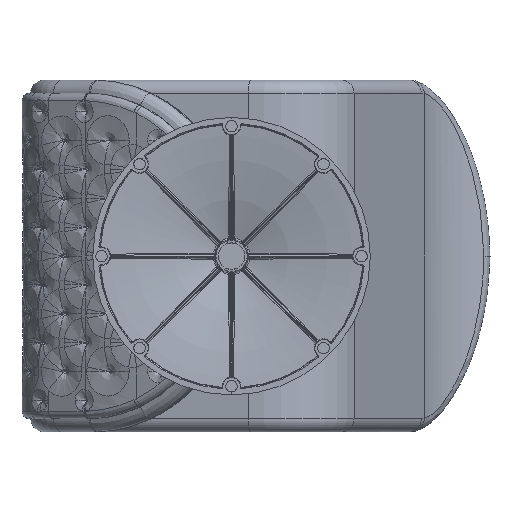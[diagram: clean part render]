
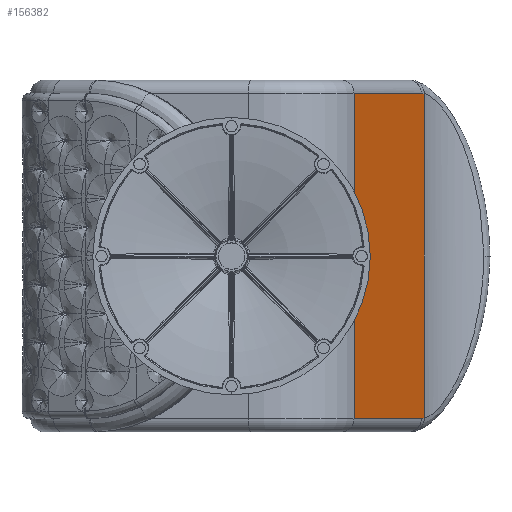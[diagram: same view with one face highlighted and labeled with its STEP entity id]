
A CAD part, front view. The second image highlights one B-rep face of the part: STEP entity #156382.
In plain terms, the highlighted planar face has unit normal (0.93, -0.366, 0).
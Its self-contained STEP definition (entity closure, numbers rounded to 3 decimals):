
#4900 = CARTESIAN_POINT ( 'NONE',  ( 538.254, -15.279, -585.55 ) ) ;
#6703 = VERTEX_POINT ( 'NONE', #183985 ) ;
#7054 = VECTOR ( 'NONE', #212210, 1000. ) ;
#7744 = ORIENTED_EDGE ( 'NONE', *, *, #209621, .T. ) ;
#8601 = EDGE_CURVE ( 'NONE', #83063, #13597, #74716, .T. ) ;
#13597 = VERTEX_POINT ( 'NONE', #151121 ) ;
#14421 = EDGE_CURVE ( 'NONE', #183163, #6703, #230262, .T. ) ;
#15755 = AXIS2_PLACEMENT_3D ( 'NONE', #97322, #58363, #232225 ) ;
#23156 = EDGE_LOOP ( 'NONE', ( #181387, #190611, #7744, #161607, #98940, #212314 ) ) ;
#25504 = CARTESIAN_POINT ( 'NONE',  ( 656.184, 284.105, -585.55 ) ) ;
#28682 = FACE_OUTER_BOUND ( 'NONE', #23156, .T. ) ;
#30157 = CARTESIAN_POINT ( 'NONE',  ( 654.523, 279.888, -585.55 ) ) ;
#49538 = CARTESIAN_POINT ( 'NONE',  ( 538.254, -15.279, -22.45 ) ) ;
#50424 = CARTESIAN_POINT ( 'NONE',  ( 654.523, 279.888, -22.45 ) ) ;
#58363 = DIRECTION ( 'NONE',  ( -0.93, 0.367, 0. ) ) ;
#58507 = CARTESIAN_POINT ( 'NONE',  ( 654.523, 279.888, -585.55 ) ) ;
#61096 = CARTESIAN_POINT ( 'NONE',  ( 659.499, 292.518, 0. ) ) ;
#64700 = LINE ( 'NONE', #61096, #7054 ) ;
#66321 = CARTESIAN_POINT ( 'NONE',  ( 656.184, 284.105, -22.45 ) ) ;
#66491 = VERTEX_POINT ( 'NONE', #4900 ) ;
#74716 = B_SPLINE_CURVE_WITH_KNOTS ( 'NONE', 3,
 ( #179694, #122349, #66321, #50424 ),
 .UNSPECIFIED., .F., .F.,
 ( 4, 4 ),
 ( 0., 0.014 ),
 .UNSPECIFIED. ) ;
#79827 = DIRECTION ( 'NONE',  ( 0.367, 0.93, 0. ) ) ;
#83063 = VERTEX_POINT ( 'NONE', #215412 ) ;
#97322 = CARTESIAN_POINT ( 'NONE',  ( 330.657, -542.294, 0. ) ) ;
#98940 = ORIENTED_EDGE ( 'NONE', *, *, #116244, .T. ) ;
#113343 = CARTESIAN_POINT ( 'NONE',  ( 657.843, 288.315, -585.366 ) ) ;
#114900 = DIRECTION ( 'NONE',  ( 0., 0., 1. ) ) ;
#116083 = LINE ( 'NONE', #191666, #164228 ) ;
#116244 = EDGE_CURVE ( 'NONE', #66491, #183163, #118712, .T. ) ;
#118712 = LINE ( 'NONE', #170086, #166963 ) ;
#122349 = CARTESIAN_POINT ( 'NONE',  ( 657.843, 288.315, -22.634 ) ) ;
#133549 = LINE ( 'NONE', #205512, #140921 ) ;
#140921 = VECTOR ( 'NONE', #207892, 1000. ) ;
#151121 = CARTESIAN_POINT ( 'NONE',  ( 654.523, 279.888, -22.45 ) ) ;
#156382 = ADVANCED_FACE ( 'NONE', ( #28682 ), #225352, .F. ) ;
#161607 = ORIENTED_EDGE ( 'NONE', *, *, #209043, .F. ) ;
#164228 = VECTOR ( 'NONE', #114900, 1000. ) ;
#166963 = VECTOR ( 'NONE', #79827, 1000. ) ;
#170086 = CARTESIAN_POINT ( 'NONE',  ( 648.323, 264.147, -585.55 ) ) ;
#172806 = VERTEX_POINT ( 'NONE', #49538 ) ;
#179694 = CARTESIAN_POINT ( 'NONE',  ( 659.499, 292.518, -23.002 ) ) ;
#181387 = ORIENTED_EDGE ( 'NONE', *, *, #205711, .T. ) ;
#183163 = VERTEX_POINT ( 'NONE', #30157 ) ;
#183985 = CARTESIAN_POINT ( 'NONE',  ( 659.499, 292.518, -584.998 ) ) ;
#190611 = ORIENTED_EDGE ( 'NONE', *, *, #8601, .T. ) ;
#191666 = CARTESIAN_POINT ( 'NONE',  ( 538.254, -15.279, 0. ) ) ;
#192498 = CARTESIAN_POINT ( 'NONE',  ( 659.499, 292.518, -584.998 ) ) ;
#205512 = CARTESIAN_POINT ( 'NONE',  ( 538.254, -15.279, -22.45 ) ) ;
#205711 = EDGE_CURVE ( 'NONE', #6703, #83063, #64700, .T. ) ;
#207892 = DIRECTION ( 'NONE',  ( -0.367, -0.93, 0. ) ) ;
#209043 = EDGE_CURVE ( 'NONE', #66491, #172806, #116083, .T. ) ;
#209621 = EDGE_CURVE ( 'NONE', #13597, #172806, #133549, .T. ) ;
#212210 = DIRECTION ( 'NONE',  ( 0., 0., 1. ) ) ;
#212314 = ORIENTED_EDGE ( 'NONE', *, *, #14421, .T. ) ;
#215412 = CARTESIAN_POINT ( 'NONE',  ( 659.499, 292.518, -23.002 ) ) ;
#225352 = PLANE ( 'NONE',  #15755 ) ;
#230262 = B_SPLINE_CURVE_WITH_KNOTS ( 'NONE', 3,
 ( #58507, #25504, #113343, #192498 ),
 .UNSPECIFIED., .F., .F.,
 ( 4, 4 ),
 ( 0., 0.014 ),
 .UNSPECIFIED. ) ;
#232225 = DIRECTION ( 'NONE',  ( -0.367, -0.93, 0. ) ) ;
